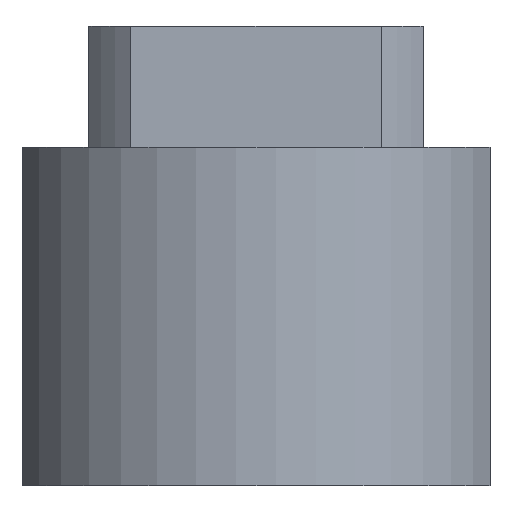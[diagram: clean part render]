
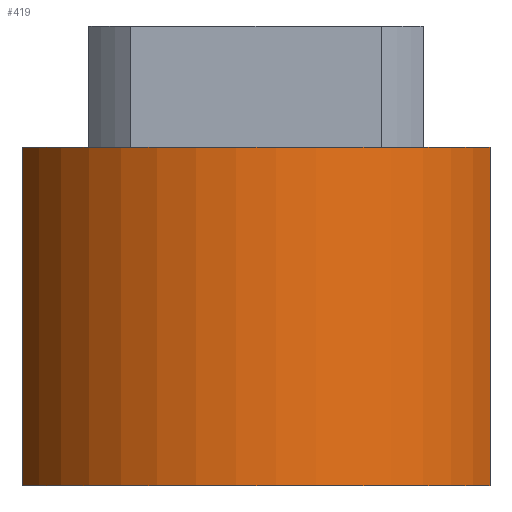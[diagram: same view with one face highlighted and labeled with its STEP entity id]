
A CAD part, front view. The second image highlights one B-rep face of the part: STEP entity #419.
In plain terms, the highlighted cylindrical face has radius 5.95 mm (diameter 11.9 mm), a partial arc.
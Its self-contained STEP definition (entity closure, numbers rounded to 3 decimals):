
#316 = ORIENTED_EDGE ( 'NONE', *, *, #341, .T. ) ;
#317 = ORIENTED_EDGE ( 'NONE', *, *, #406, .T. ) ;
#323 = VERTEX_POINT ( 'NONE', #956 ) ;
#325 = EDGE_CURVE ( 'NONE', #405, #323, #954, .T. ) ;
#341 = EDGE_CURVE ( 'NONE', #342, #353, #976, .T. ) ;
#342 = VERTEX_POINT ( 'NONE', #971 ) ;
#353 = VERTEX_POINT ( 'NONE', #1030 ) ;
#405 = VERTEX_POINT ( 'NONE', #1026 ) ;
#406 = EDGE_CURVE ( 'NONE', #353, #405, #1025, .T. ) ;
#410 = EDGE_CURVE ( 'NONE', #323, #342, #1143, .T. ) ;
#411 = EDGE_LOOP ( 'NONE', ( #420, #421, #316, #317 ) ) ;
#419 = ADVANCED_FACE ( 'NONE', ( #1184 ), #1172, .T. ) ;
#420 = ORIENTED_EDGE ( 'NONE', *, *, #325, .T. ) ;
#421 = ORIENTED_EDGE ( 'NONE', *, *, #410, .T. ) ;
#950 = DIRECTION ( 'NONE',  ( -1., 0., 0. ) ) ;
#951 = DIRECTION ( 'NONE',  ( 0., 0., -1. ) ) ;
#952 = CARTESIAN_POINT ( 'NONE',  ( 0., 0., 8.1 ) ) ;
#953 = AXIS2_PLACEMENT_3D ( 'NONE', #952, #951, #950 ) ;
#954 = CIRCLE ( 'NONE', #953, 5.95 ) ;
#956 = CARTESIAN_POINT ( 'NONE',  ( -5.6, -2.011, 8.1 ) ) ;
#971 = CARTESIAN_POINT ( 'NONE',  ( -5.6, -2.011, 0. ) ) ;
#972 = DIRECTION ( 'NONE',  ( -1., 0., 0. ) ) ;
#973 = DIRECTION ( 'NONE',  ( 0., 0., 1. ) ) ;
#974 = CARTESIAN_POINT ( 'NONE',  ( 0., 0., 0. ) ) ;
#975 = AXIS2_PLACEMENT_3D ( 'NONE', #974, #973, #972 ) ;
#976 = CIRCLE ( 'NONE', #975, 5.95 ) ;
#1024 = CARTESIAN_POINT ( 'NONE',  ( 5.6, -2.011, 11. ) ) ;
#1025 = LINE ( 'NONE', #1024, #1212 ) ;
#1026 = CARTESIAN_POINT ( 'NONE',  ( 5.6, -2.011, 8.1 ) ) ;
#1030 = CARTESIAN_POINT ( 'NONE',  ( 5.6, -2.011, 0. ) ) ;
#1142 = CARTESIAN_POINT ( 'NONE',  ( -5.6, -2.011, 11. ) ) ;
#1143 = LINE ( 'NONE', #1142, #1214 ) ;
#1169 = DIRECTION ( 'NONE',  ( -1., 0., 0. ) ) ;
#1170 = DIRECTION ( 'NONE',  ( 0., 0., -1. ) ) ;
#1171 = AXIS2_PLACEMENT_3D ( 'NONE', #1173, #1170, #1169 ) ;
#1172 = CYLINDRICAL_SURFACE ( 'NONE', #1171, 5.95 ) ;
#1173 = CARTESIAN_POINT ( 'NONE',  ( 0., 0., 11. ) ) ;
#1184 = FACE_OUTER_BOUND ( 'NONE', #411, .T. ) ;
#1211 = DIRECTION ( 'NONE',  ( 0., 0., 1. ) ) ;
#1212 = VECTOR ( 'NONE', #1211, 1000. ) ;
#1213 = DIRECTION ( 'NONE',  ( 0., 0., -1. ) ) ;
#1214 = VECTOR ( 'NONE', #1213, 1000. ) ;
